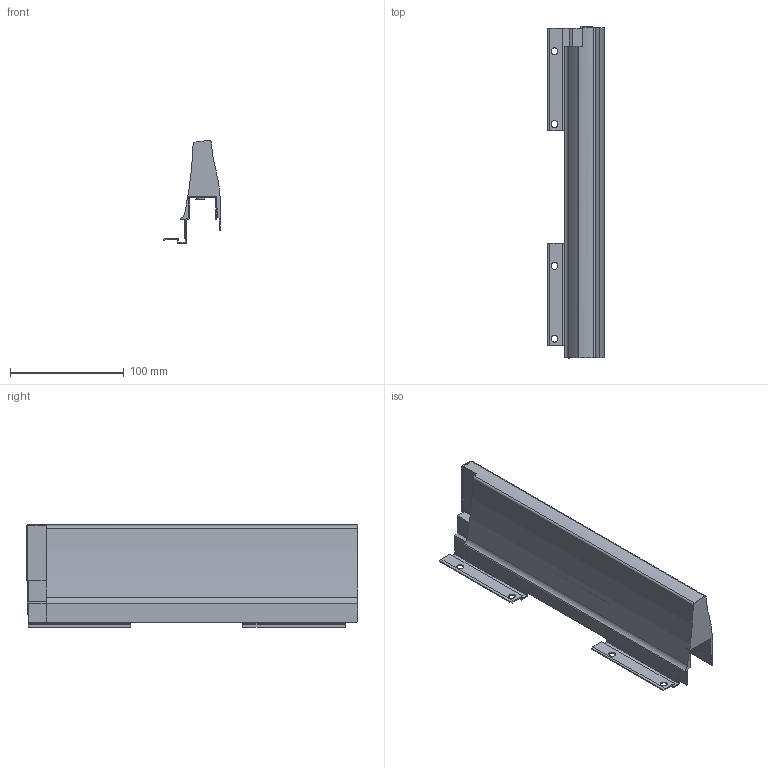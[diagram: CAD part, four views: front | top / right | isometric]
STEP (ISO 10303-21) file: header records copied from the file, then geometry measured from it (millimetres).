
FILE_DESCRIPTION (( 'STEP AP214' ), '1' );
FILE_NAME ('_XP Standard Dekorseite H95 NL300 RE .step', '2010-07-14T06:08:52', ( 'grass' ), ( '' ), 'SwSTEP 2.0', 'SolidWorks 2010', '' );
FILE_SCHEMA (( 'AUTOMOTIVE_DESIGN' ));
Length unit declared in the file: millimetre
Products named in the file (1): _XP Standard Dekorseite H95 NL300 RE 
Bounding box: 50.01 x 291.5 x 90 mm (x, y, z)
Volume: 353475.4 mm3; surface area: 97795.6 mm2
Topology: 1 solids, 1 shells, 105 faces, 306 edges, 200 vertices
Faces by surface type: plane 79, cylinder 26
Entity records: 3497 total; most frequent: CARTESIAN_POINT 612, ORIENTED_EDGE 612, DIRECTION 573, EDGE_CURVE 306, LINE 251, VECTOR 251, VERTEX_POINT 200, AXIS2_PLACEMENT_3D 161
